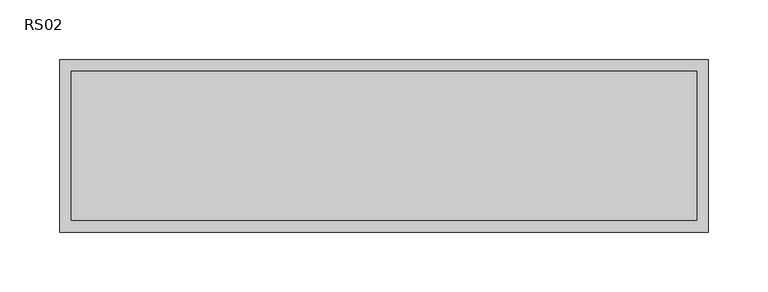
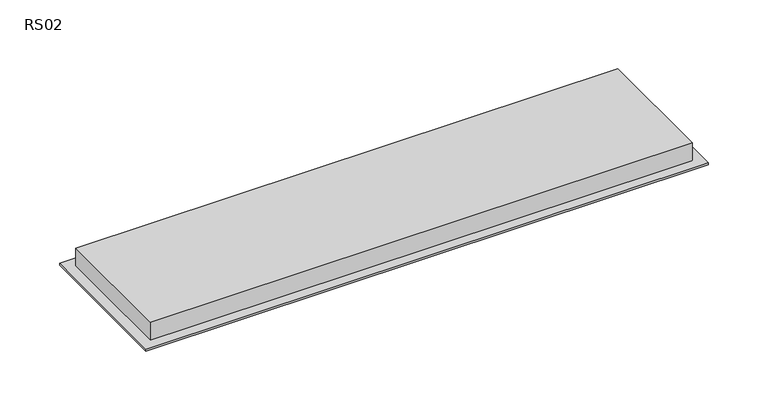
"""IFC4 building model written with IfcOpenShell, lengths in millimetres: air terminal geometry, ZYR_03.06.04.01 Reixa Sostre Sobrepressio : RS02."""

from ifc_helpers import new_model, si_unit, origin, origin_with_axes, place, context, project, spatial, polyline, outline, extrude, source, transform, mapped, element, save


def rs02_bd3b7844(model_context):
    return source(origin(), model_context, "Body", "SweptSolid", [
        extrude(outline(polyline([(262.5, 62.5), (262.5, -62.5), (-262.5, -62.5), (-262.5, 62.5), (262.5, 62.5)])), origin_with_axes(), (0.0, 0.0, 1.0), 20.0),
        extrude(outline(polyline([(272.5, 72.5), (272.5, -72.5), (-272.5, -72.5), (-272.5, 72.5), (272.5, 72.5)]), holes=[polyline([(262.5, 62.5), (-262.5, 62.5), (-262.5, -62.5), (262.5, -62.5), (262.5, 62.5)])]), origin_with_axes(), (0.0, 0.0, 1.0), 2.0),
    ])


if __name__ == "__main__":
    model = new_model("IFC4")
    model_context = context("Model", 3, world=origin())
    ifc_project = project(units=[si_unit("LENGTHUNIT", "METRE", prefix="MILLI")], contexts=[model_context])
    site = spatial("IfcSite", under=ifc_project)
    building = spatial("IfcBuilding", under=site)
    placement = place(None, origin())
    rs02_shape = rs02_bd3b7844(model_context)
    element("IfcAirTerminal", 1, ObjectType="ZYR_03.06.04.01 Reixa Sostre Sobrepressio : RS02", at=placement, inside=building, context=model_context, shape_type="MappedRepresentation", body=[
        mapped(rs02_shape, transform((0.0, 0.0, 0.0), x_axis=(1.0, 0.0, 0.0), y_axis=(0.0, 1.0, 0.0), z_axis=(0.0, 0.0, 1.0))),
    ])
    save(model, "model.ifc")
